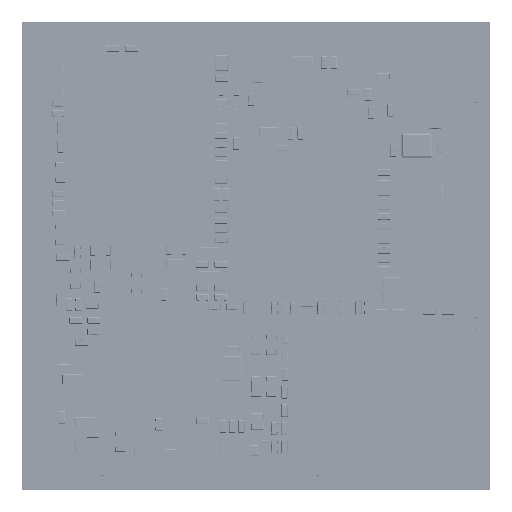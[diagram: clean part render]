
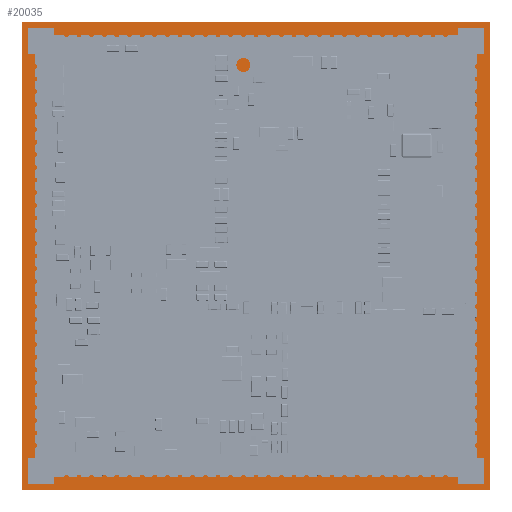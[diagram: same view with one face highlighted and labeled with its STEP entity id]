
A CAD part, top view. The second image highlights one B-rep face of the part: STEP entity #20035.
In plain terms, the highlighted planar face has unit normal (0, 0, 1) as drawn and (0, 0, -1) by its records, which use the part's own axes.
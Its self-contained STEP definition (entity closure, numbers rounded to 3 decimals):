
#20035=ADVANCED_FACE('',(#36586),#36587,.T.);
#36586=FACE_OUTER_BOUND('',#51534,.T.);
#36587=PLANE('',#51535);
#51534=EDGE_LOOP('',(#85274,#85275,#85276,#85277));
#51535=AXIS2_PLACEMENT_3D('',#85278,#85279,#85280);
#85274=ORIENTED_EDGE('',*,*,#98861,.T.);
#85275=ORIENTED_EDGE('',*,*,#98862,.T.);
#85276=ORIENTED_EDGE('',*,*,#98863,.T.);
#85277=ORIENTED_EDGE('',*,*,#98864,.T.);
#85278=CARTESIAN_POINT('',(0.,0.0,0.0));
#85279=DIRECTION('',(-0.0,0.0,-1.0));
#85280=DIRECTION('',(-1.0,0.0,0.0));
#98861=EDGE_CURVE('',#117609,#117610,#117611,.T.);
#98862=EDGE_CURVE('',#117610,#117612,#117613,.T.);
#98863=EDGE_CURVE('',#117612,#117614,#117615,.T.);
#98864=EDGE_CURVE('',#117614,#117609,#117616,.T.);
#117609=VERTEX_POINT('',#142338);
#117610=VERTEX_POINT('',#142339);
#117611=LINE('',#142340,#142341);
#117612=VERTEX_POINT('',#142342);
#117613=LINE('',#142343,#142344);
#117614=VERTEX_POINT('',#142345);
#117615=LINE('',#142346,#142347);
#117616=LINE('',#142348,#142349);
#142338=CARTESIAN_POINT('',(18.5,18.5,0.0));
#142339=CARTESIAN_POINT('',(18.5,-18.5,0.0));
#142340=CARTESIAN_POINT('',(18.5,18.5,0.0));
#142341=VECTOR('',#155391,1.0);
#142342=CARTESIAN_POINT('',(-18.5,-18.5,0.0));
#142343=CARTESIAN_POINT('',(18.5,-18.5,0.0));
#142344=VECTOR('',#155392,1.0);
#142345=CARTESIAN_POINT('',(-18.5,18.5,0.0));
#142346=CARTESIAN_POINT('',(-18.5,-18.5,0.0));
#142347=VECTOR('',#155393,1.0);
#142348=CARTESIAN_POINT('',(-18.5,18.5,0.0));
#142349=VECTOR('',#155394,1.0);
#155391=DIRECTION('',(0.0,-1.0,0.0));
#155392=DIRECTION('',(-1.0,0.0,0.0));
#155393=DIRECTION('',(0.0,1.0,0.0));
#155394=DIRECTION('',(1.0,0.0,0.0));
